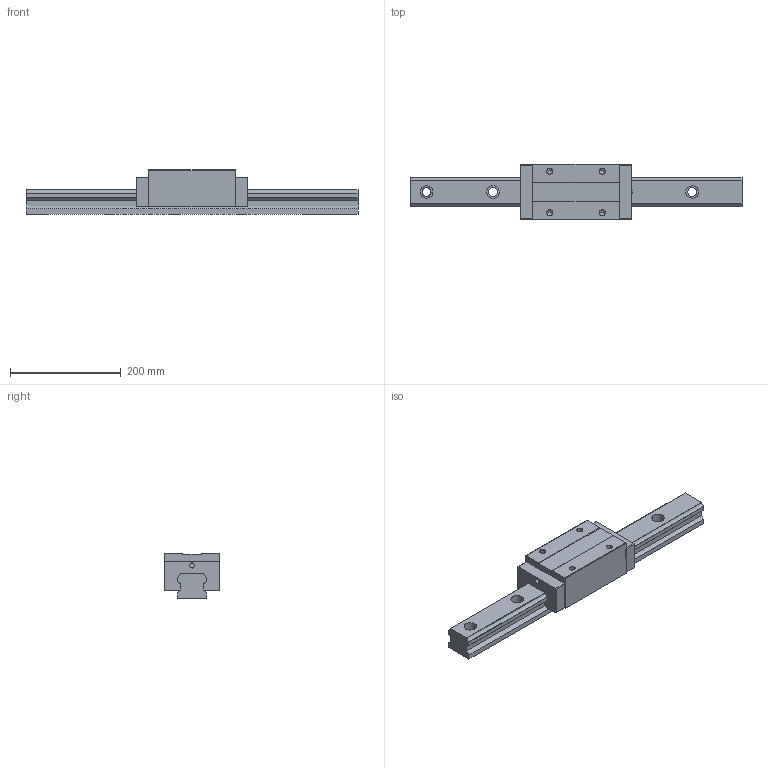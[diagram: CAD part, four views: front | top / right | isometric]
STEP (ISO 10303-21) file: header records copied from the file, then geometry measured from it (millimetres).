
FILE_DESCRIPTION (( 'STEP AP203' ), '1' );
FILE_NAME ('TRH55VE-XN-§ï.STEP', '2023-08-30T05:45:50', ( '' ), ( '' ), 'SwSTEP 2.0', 'SolidWorks 2022', '' );
FILE_SCHEMA (( 'CONFIG_CONTROL_DESIGN' ));
Length unit declared in the file: millimetre
Products named in the file (1): TRH55VE-XN-改
Bounding box: 600 x 100 x 80 mm (x, y, z)
Volume: 2163767.4 mm3; surface area: 219305.9 mm2
Topology: 1 solids, 1 shells, 160 faces, 440 edges, 282 vertices
Faces by surface type: plane 76, cylinder 68, cone 16
Entity records: 5139 total; most frequent: DIRECTION 900, CARTESIAN_POINT 875, ORIENTED_EDGE 864, EDGE_CURVE 432, AXIS2_PLACEMENT_3D 307, LINE 286, VECTOR 286, VERTEX_POINT 282
